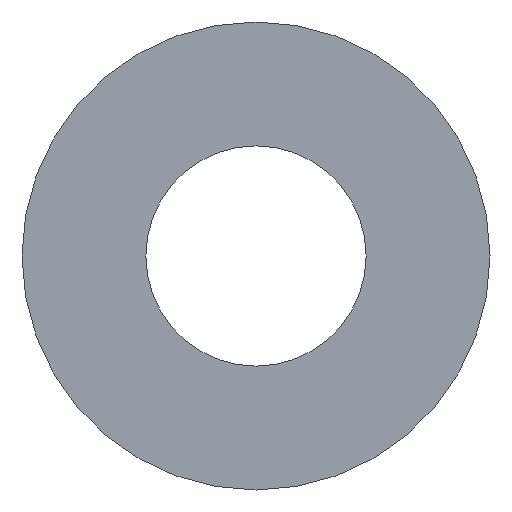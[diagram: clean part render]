
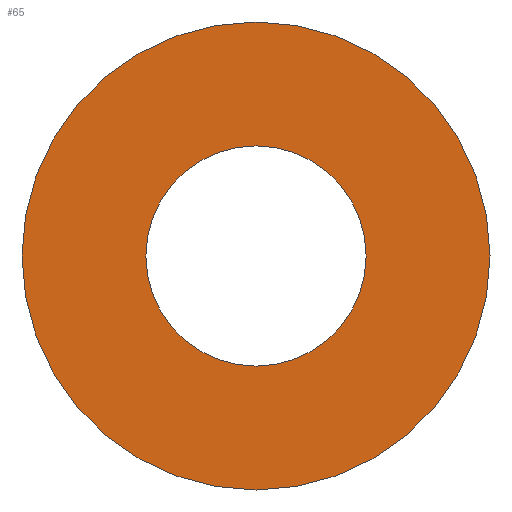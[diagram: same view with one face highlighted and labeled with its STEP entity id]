
A CAD part, front view. The second image highlights one B-rep face of the part: STEP entity #65.
In plain terms, the highlighted planar face has unit normal (0, -1, 0).
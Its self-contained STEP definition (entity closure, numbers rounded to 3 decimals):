
#13 = DIRECTION ( 'NONE',  ( 0., 1., 0. ) ) ;
#21 = CIRCLE ( 'NONE', #154, 17. ) ;
#23 = FACE_OUTER_BOUND ( 'NONE', #246, .T. ) ;
#25 = CARTESIAN_POINT ( 'NONE',  ( 0., 0., 0. ) ) ;
#28 = PLANE ( 'NONE',  #92 ) ;
#34 = AXIS2_PLACEMENT_3D ( 'NONE', #48, #86, #90 ) ;
#44 = EDGE_CURVE ( 'NONE', #178, #123, #21, .T. ) ;
#48 = CARTESIAN_POINT ( 'NONE',  ( 0., 0., 0. ) ) ;
#50 = DIRECTION ( 'NONE',  ( 0., 0., 1. ) ) ;
#58 = CIRCLE ( 'NONE', #34, 8. ) ;
#65 = ADVANCED_FACE ( 'NONE', ( #23, #156 ), #28, .F. ) ;
#69 = VERTEX_POINT ( 'NONE', #110 ) ;
#75 = EDGE_LOOP ( 'NONE', ( #272, #77 ) ) ;
#77 = ORIENTED_EDGE ( 'NONE', *, *, #124, .T. ) ;
#78 = DIRECTION ( 'NONE',  ( 0., 1., 0. ) ) ;
#86 = DIRECTION ( 'NONE',  ( 0., 1., 0. ) ) ;
#87 = DIRECTION ( 'NONE',  ( 0., 1., 0. ) ) ;
#88 = CIRCLE ( 'NONE', #236, 17. ) ;
#89 = CIRCLE ( 'NONE', #237, 8. ) ;
#90 = DIRECTION ( 'NONE',  ( 0., 0., 1. ) ) ;
#92 = AXIS2_PLACEMENT_3D ( 'NONE', #172, #239, #50 ) ;
#100 = CARTESIAN_POINT ( 'NONE',  ( 0., 0., 0. ) ) ;
#106 = EDGE_CURVE ( 'NONE', #69, #253, #58, .T. ) ;
#110 = CARTESIAN_POINT ( 'NONE',  ( 0., 0., -8. ) ) ;
#123 = VERTEX_POINT ( 'NONE', #260 ) ;
#124 = EDGE_CURVE ( 'NONE', #253, #69, #89, .T. ) ;
#136 = DIRECTION ( 'NONE',  ( 0., 0., 1. ) ) ;
#143 = CARTESIAN_POINT ( 'NONE',  ( 0., 0., 0. ) ) ;
#147 = CARTESIAN_POINT ( 'NONE',  ( 0., 0., 8. ) ) ;
#154 = AXIS2_PLACEMENT_3D ( 'NONE', #25, #87, #136 ) ;
#156 = FACE_BOUND ( 'NONE', #75, .T. ) ;
#157 = CARTESIAN_POINT ( 'NONE',  ( 0., 0., 17. ) ) ;
#160 = EDGE_CURVE ( 'NONE', #123, #178, #88, .T. ) ;
#166 = ORIENTED_EDGE ( 'NONE', *, *, #160, .F. ) ;
#172 = CARTESIAN_POINT ( 'NONE',  ( 0., 0., 0. ) ) ;
#178 = VERTEX_POINT ( 'NONE', #157 ) ;
#209 = DIRECTION ( 'NONE',  ( 0., 0., 1. ) ) ;
#210 = ORIENTED_EDGE ( 'NONE', *, *, #44, .F. ) ;
#211 = DIRECTION ( 'NONE',  ( 0., 0., 1. ) ) ;
#236 = AXIS2_PLACEMENT_3D ( 'NONE', #143, #78, #211 ) ;
#237 = AXIS2_PLACEMENT_3D ( 'NONE', #100, #13, #209 ) ;
#239 = DIRECTION ( 'NONE',  ( 0., 1., 0. ) ) ;
#246 = EDGE_LOOP ( 'NONE', ( #166, #210 ) ) ;
#253 = VERTEX_POINT ( 'NONE', #147 ) ;
#260 = CARTESIAN_POINT ( 'NONE',  ( 0., 0., -17. ) ) ;
#272 = ORIENTED_EDGE ( 'NONE', *, *, #106, .T. ) ;
